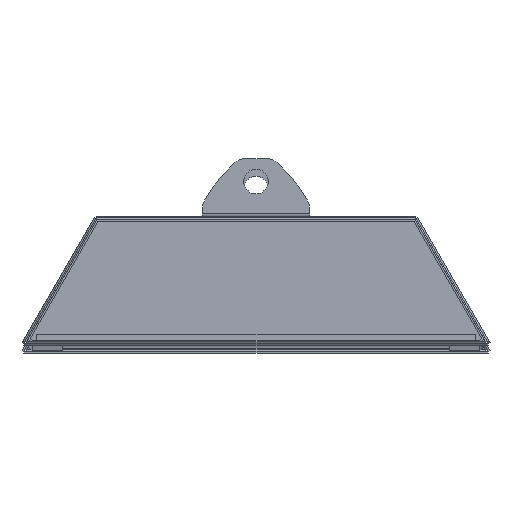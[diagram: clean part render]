
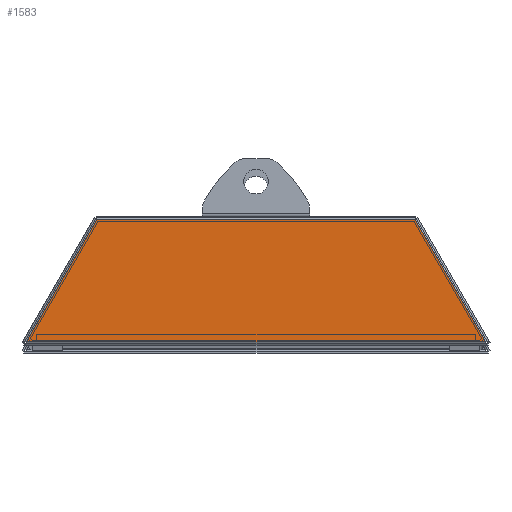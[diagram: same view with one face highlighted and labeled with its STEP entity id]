
A CAD part, top view. The second image highlights one B-rep face of the part: STEP entity #1583.
In plain terms, the highlighted planar face has unit normal (0, 0, 1).
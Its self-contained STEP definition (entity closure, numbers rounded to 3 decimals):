
#1583=ADVANCED_FACE('',(#4278),#4280,.T.);
#4278=FACE_BOUND('',#4279,.T.);
#4279=EDGE_LOOP('',(#6066,#6067,#6068,#6069));
#4280=PLANE('',#4281);
#4281=AXIS2_PLACEMENT_3D('',#4282,#4283,#4284);
#4282=CARTESIAN_POINT('',(0.,0.,0.));
#4283=DIRECTION('',(-0.,-0.,1.));
#4284=DIRECTION('',(1.,0.,0.));
#6066=ORIENTED_EDGE('',*,*,#6763,.F.);
#6067=ORIENTED_EDGE('',*,*,#6764,.F.);
#6068=ORIENTED_EDGE('',*,*,#6765,.F.);
#6069=ORIENTED_EDGE('',*,*,#6752,.F.);
#6752=EDGE_CURVE('',#7464,#7466,#7467,.T.);
#6763=EDGE_CURVE('',#7483,#7464,#7484,.T.);
#6764=EDGE_CURVE('',#7485,#7483,#7486,.T.);
#6765=EDGE_CURVE('',#7466,#7485,#7487,.T.);
#7464=VERTEX_POINT('',#9383);
#7466=VERTEX_POINT('',#9395);
#7467=LINE('',#9396,#9397);
#7483=VERTEX_POINT('',#9503);
#7484=LINE('',#9504,#9505);
#7485=VERTEX_POINT('',#9507);
#7486=LINE('',#9508,#9509);
#7487=LINE('',#9511,#9512);
#9383=CARTESIAN_POINT('',(-51.848,0.,-0.));
#9395=CARTESIAN_POINT('',(51.848,0.,0.));
#9396=CARTESIAN_POINT('',(-51.848,0.,0.));
#9397=VECTOR('',#9398,1.);
#9398=DIRECTION('',(1.,0.,0.));
#9503=CARTESIAN_POINT('',(-74.827,-39.8,-0.));
#9504=CARTESIAN_POINT('',(-74.827,-39.8,0.));
#9505=VECTOR('',#9506,1.);
#9506=DIRECTION('',(0.5,0.866,0.));
#9507=CARTESIAN_POINT('',(74.827,-39.8,0.));
#9508=CARTESIAN_POINT('',(74.827,-39.8,0.));
#9509=VECTOR('',#9510,1.);
#9510=DIRECTION('',(-1.,0.,0.));
#9511=CARTESIAN_POINT('',(51.848,0.,0.));
#9512=VECTOR('',#9513,1.);
#9513=DIRECTION('',(0.5,-0.866,0.));
